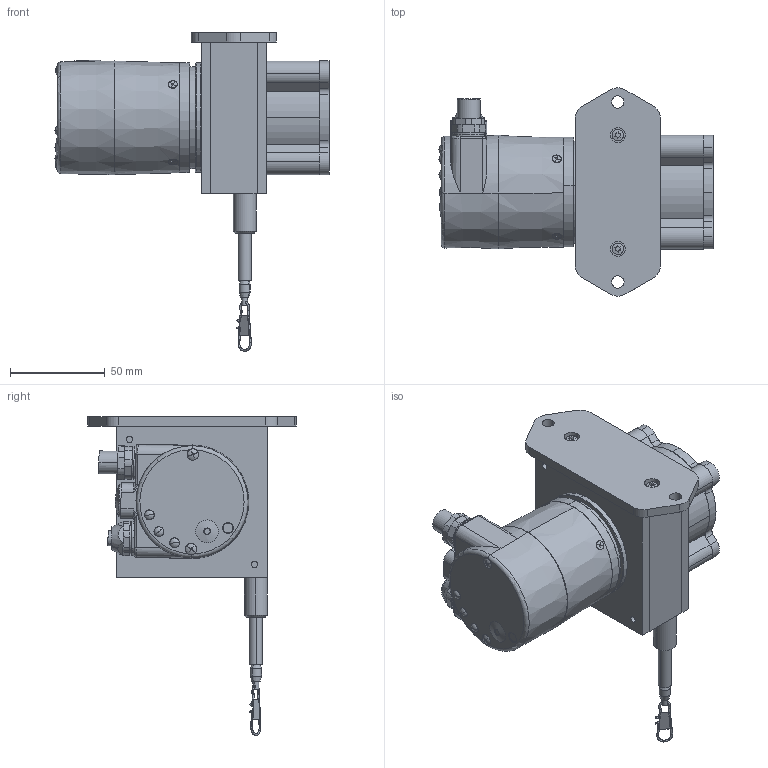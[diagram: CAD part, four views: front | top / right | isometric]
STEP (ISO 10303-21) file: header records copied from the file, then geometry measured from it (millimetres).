
FILE_DESCRIPTION (( 'STEP AP214' ), '1' );
FILE_NAME ('D8.4B1.0200.6822.2113.STEP', '2009-04-02T08:11:49', ( 'admin' ), ( 'Fritz Kübler GmbH' ), 'SwSTEP 2.0', 'SolidWorks 2008', '' );
FILE_SCHEMA (( 'AUTOMOTIVE_DESIGN' ));
Length unit declared in the file: millimetre
Products named in the file (1): D8.4B1.0200.6822.2113
Bounding box: 144.65 x 110 x 168.32 mm (x, y, z)
Volume: 228952.3 mm3; surface area: 143829.1 mm2
Topology: 32 solids, 32 shells, 1574 faces, 3816 edges, 2353 vertices
Faces by surface type: cylinder 606, plane 511, cone 251, torus 120, bspline 58, sphere 28
Entity records: 67286 total; most frequent: CARTESIAN_POINT 12469, DIRECTION 8152, ORIENTED_EDGE 7516, EDGE_CURVE 3758, AXIS2_PLACEMENT_3D 3260, VERTEX_POINT 2353, EDGE_LOOP 1785, CIRCLE 1743
